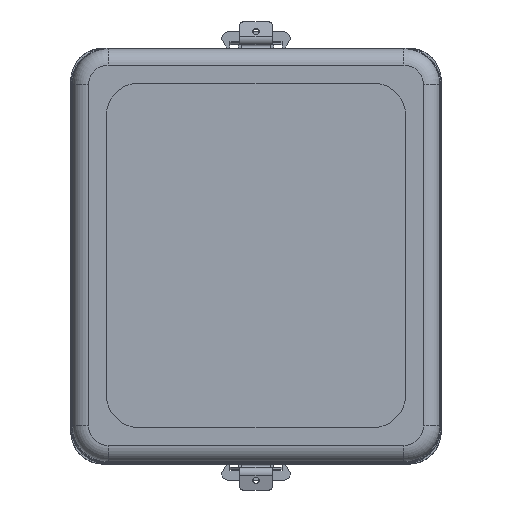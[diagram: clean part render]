
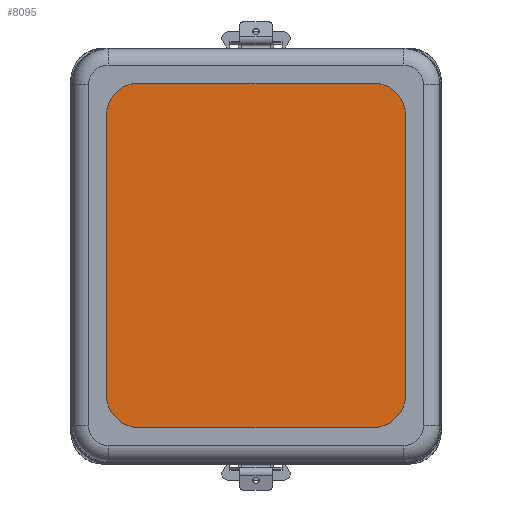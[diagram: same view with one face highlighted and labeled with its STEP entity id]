
A CAD part, top view. The second image highlights one B-rep face of the part: STEP entity #8095.
In plain terms, the highlighted planar face has unit normal (0, 0, 1).
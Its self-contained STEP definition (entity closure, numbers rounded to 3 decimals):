
#8095=ADVANCED_FACE('',(#24937),#24939,.T.);
#24937=FACE_BOUND('',#24938,.T.);
#24938=EDGE_LOOP('',(#30428,#30429,#30430,#30431,#30432,#30433,#30434,#30435));
#24939=PLANE('',#24940);
#24940=AXIS2_PLACEMENT_3D('',#24941,#24942,#24943);
#24941=CARTESIAN_POINT('',(0.,0.,161.5));
#24942=DIRECTION('',(0.,0.,1.));
#24943=DIRECTION('',(1.,0.,0.));
#30428=ORIENTED_EDGE('',*,*,#33136,.T.);
#30429=ORIENTED_EDGE('',*,*,#33135,.T.);
#30430=ORIENTED_EDGE('',*,*,#33148,.T.);
#30431=ORIENTED_EDGE('',*,*,#33146,.T.);
#30432=ORIENTED_EDGE('',*,*,#33144,.T.);
#30433=ORIENTED_EDGE('',*,*,#33142,.T.);
#30434=ORIENTED_EDGE('',*,*,#33140,.T.);
#30435=ORIENTED_EDGE('',*,*,#33138,.T.);
#33135=EDGE_CURVE('',#37222,#37224,#37226,.F.);
#33136=EDGE_CURVE('',#37227,#37222,#37228,.F.);
#33138=EDGE_CURVE('',#37230,#37227,#37231,.F.);
#33140=EDGE_CURVE('',#37233,#37230,#37234,.F.);
#33142=EDGE_CURVE('',#37236,#37233,#37237,.F.);
#33144=EDGE_CURVE('',#37239,#37236,#37240,.F.);
#33146=EDGE_CURVE('',#37242,#37239,#37243,.F.);
#33148=EDGE_CURVE('',#37224,#37242,#37245,.F.);
#37222=VERTEX_POINT('',#49187);
#37224=VERTEX_POINT('',#49191);
#37226=LINE('',#49195,#49196);
#37227=VERTEX_POINT('',#49198);
#37228=CIRCLE('',#49199,10.);
#37230=VERTEX_POINT('',#49206);
#37231=LINE('',#49207,#49208);
#37233=VERTEX_POINT('',#49213);
#37234=CIRCLE('',#49214,10.);
#37236=VERTEX_POINT('',#49221);
#37237=LINE('',#49222,#49223);
#37239=VERTEX_POINT('',#49228);
#37240=CIRCLE('',#49229,10.);
#37242=VERTEX_POINT('',#49236);
#37243=LINE('',#49237,#49238);
#37245=CIRCLE('',#49243,10.);
#49187=CARTESIAN_POINT('',(-36.,-53.,161.5));
#49191=CARTESIAN_POINT('',(36.,-53.,161.5));
#49195=CARTESIAN_POINT('',(36.,-53.,161.5));
#49196=VECTOR('',#49197,1.);
#49197=DIRECTION('',(-1.,0.,0.));
#49198=CARTESIAN_POINT('',(-46.,-43.,161.5));
#49199=AXIS2_PLACEMENT_3D('',#49200,#49201,#49202);
#49200=CARTESIAN_POINT('',(-36.,-43.,161.5));
#49201=DIRECTION('',(-0.,-0.,-1.));
#49202=DIRECTION('',(0.,-1.,0.));
#49206=CARTESIAN_POINT('',(-46.,43.,161.5));
#49207=CARTESIAN_POINT('',(-46.,-43.,161.5));
#49208=VECTOR('',#49209,1.);
#49209=DIRECTION('',(0.,1.,0.));
#49213=CARTESIAN_POINT('',(-36.,53.,161.5));
#49214=AXIS2_PLACEMENT_3D('',#49215,#49216,#49217);
#49215=CARTESIAN_POINT('',(-36.,43.,161.5));
#49216=DIRECTION('',(0.,0.,-1.));
#49217=DIRECTION('',(-1.,0.,0.));
#49221=CARTESIAN_POINT('',(36.,53.,161.5));
#49222=CARTESIAN_POINT('',(-36.,53.,161.5));
#49223=VECTOR('',#49224,1.);
#49224=DIRECTION('',(1.,0.,0.));
#49228=CARTESIAN_POINT('',(46.,43.,161.5));
#49229=AXIS2_PLACEMENT_3D('',#49230,#49231,#49232);
#49230=CARTESIAN_POINT('',(36.,43.,161.5));
#49231=DIRECTION('',(0.,0.,-1.));
#49232=DIRECTION('',(0.,1.,0.));
#49236=CARTESIAN_POINT('',(46.,-43.,161.5));
#49237=CARTESIAN_POINT('',(46.,43.,161.5));
#49238=VECTOR('',#49239,1.);
#49239=DIRECTION('',(0.,-1.,0.));
#49243=AXIS2_PLACEMENT_3D('',#49244,#49245,#49246);
#49244=CARTESIAN_POINT('',(36.,-43.,161.5));
#49245=DIRECTION('',(0.,0.,-1.));
#49246=DIRECTION('',(1.,0.,0.));
